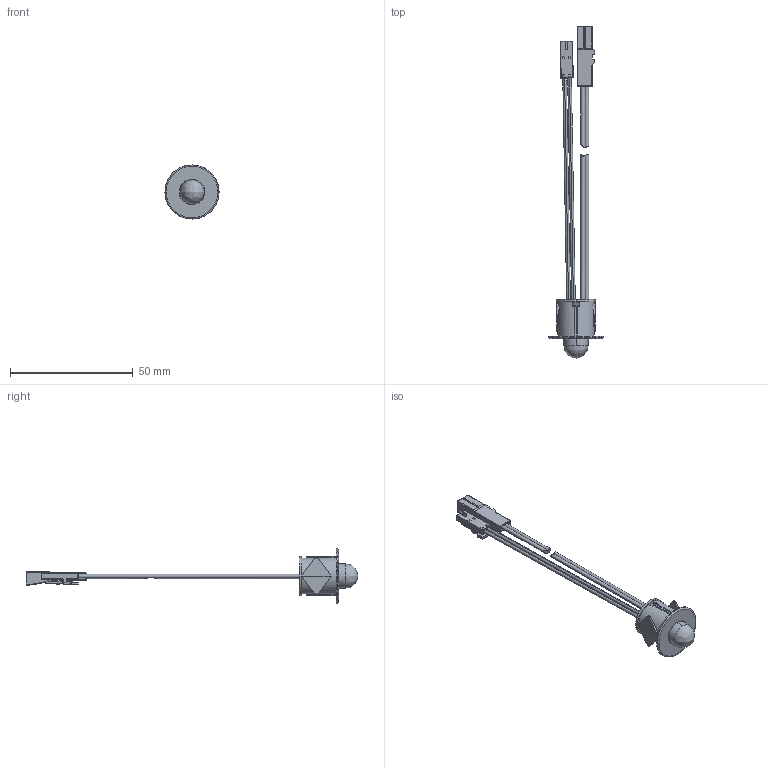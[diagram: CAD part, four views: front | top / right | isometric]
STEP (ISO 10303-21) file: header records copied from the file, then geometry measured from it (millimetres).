
FILE_DESCRIPTION (( 'STEP AP203' ), '1' );
FILE_NAME ('Bewegungsmelder_12VDC_24.STEP', '2024-12-03T07:12:44', ( '' ), ( '' ), 'SwSTEP 2.0', 'SolidWorks 2023', '' );
FILE_SCHEMA (( 'CONFIG_CONTROL_DESIGN' ));
Length unit declared in the file: millimetre
Products named in the file (9): Stecker_M1-F_BS_Geknicktes_Kabel; 96648P-PCB-02; 96648-02; PIR-LENS; 96648-01_black; Bewegungsmelder_12VDC_24; PIR; LED_Buchse_Flex; 96648P-PCB-01
Assembly tree (8 placements, depth 2):
  Bewegungsmelder_12VDC_24
    96648P-PCB-01
    PIR
    96648P-PCB-02
    PIR-LENS
    96648-01_black
    96648-02
    Stecker_M1-F_BS_Geknicktes_Kabel
    LED_Buchse_Flex
Bounding box: 22 x 134.98 x 22 mm (x, y, z)
Volume: 3400.9 mm3; surface area: 7592.3 mm2
Topology: 14 solids, 14 shells, 661 faces, 1631 edges, 958 vertices
Faces by surface type: cylinder 287, plane 243, torus 52, sphere 46, bspline 20, cone 13
Entity records: 20449 total; most frequent: CARTESIAN_POINT 4082, DIRECTION 3365, ORIENTED_EDGE 3162, EDGE_CURVE 1581, AXIS2_PLACEMENT_3D 1266, VERTEX_POINT 956, LINE 833, VECTOR 833
